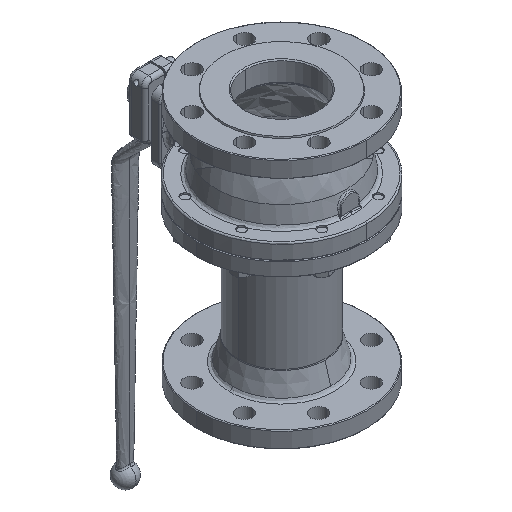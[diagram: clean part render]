
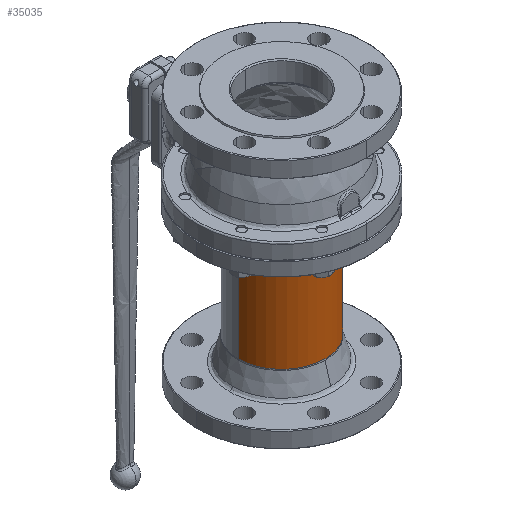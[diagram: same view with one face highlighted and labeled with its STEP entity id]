
A CAD part, isometric view. The second image highlights one B-rep face of the part: STEP entity #35035.
In plain terms, the highlighted cylindrical face has radius 60 mm (diameter 120 mm), a partial arc.
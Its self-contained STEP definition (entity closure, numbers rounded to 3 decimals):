
#556 = ORIENTED_EDGE ( 'NONE', *, *, #7911, .F. ) ;
#2024 = LINE ( 'NONE', #3053, #34164 ) ;
#2547 = VERTEX_POINT ( 'NONE', #20452 ) ;
#3053 = CARTESIAN_POINT ( 'NONE',  ( 0., 2., -60. ) ) ;
#7911 = EDGE_CURVE ( 'NONE', #8131, #29607, #38114, .T. ) ;
#8122 = EDGE_CURVE ( 'NONE', #9547, #8131, #2024, .T. ) ;
#8131 = VERTEX_POINT ( 'NONE', #35156 ) ;
#8280 = DIRECTION ( 'NONE',  ( 0., 1., 0. ) ) ;
#8581 = DIRECTION ( 'NONE',  ( 0., 1., 0. ) ) ;
#9547 = VERTEX_POINT ( 'NONE', #24201 ) ;
#12883 = AXIS2_PLACEMENT_3D ( 'NONE', #35739, #16650, #13411 ) ;
#13411 = DIRECTION ( 'NONE',  ( 0., 0., 1. ) ) ;
#16650 = DIRECTION ( 'NONE',  ( 0., 1., 0. ) ) ;
#16801 = EDGE_CURVE ( 'NONE', #2547, #29607, #37138, .T. ) ;
#17047 = CARTESIAN_POINT ( 'NONE',  ( 0., 59.56, 60. ) ) ;
#17153 = ORIENTED_EDGE ( 'NONE', *, *, #23876, .T. ) ;
#17465 = DIRECTION ( 'NONE',  ( 0., 1., 0. ) ) ;
#19497 = AXIS2_PLACEMENT_3D ( 'NONE', #27449, #8280, #30648 ) ;
#20452 = CARTESIAN_POINT ( 'NONE',  ( 0., -54.7, 60. ) ) ;
#22068 = AXIS2_PLACEMENT_3D ( 'NONE', #27747, #8581, #30966 ) ;
#23876 = EDGE_CURVE ( 'NONE', #9547, #2547, #34941, .T. ) ;
#24201 = CARTESIAN_POINT ( 'NONE',  ( 0., -54.7, -60. ) ) ;
#27449 = CARTESIAN_POINT ( 'NONE',  ( 0., 59.56, 0. ) ) ;
#27747 = CARTESIAN_POINT ( 'NONE',  ( 0., -54.7, 0. ) ) ;
#28534 = ORIENTED_EDGE ( 'NONE', *, *, #8122, .F. ) ;
#28676 = VECTOR ( 'NONE', #17465, 1000. ) ;
#28739 = CYLINDRICAL_SURFACE ( 'NONE', #12883, 60. ) ;
#29607 = VERTEX_POINT ( 'NONE', #17047 ) ;
#30648 = DIRECTION ( 'NONE',  ( 0., 0., 1. ) ) ;
#30966 = DIRECTION ( 'NONE',  ( 0., 0., 1. ) ) ;
#31965 = DIRECTION ( 'NONE',  ( 0., 1., 0. ) ) ;
#34164 = VECTOR ( 'NONE', #31965, 1000. ) ;
#34380 = EDGE_LOOP ( 'NONE', ( #28534, #17153, #37172, #556 ) ) ;
#34941 = CIRCLE ( 'NONE', #22068, 60. ) ;
#35035 = ADVANCED_FACE ( 'NONE', ( #38186 ), #28739, .T. ) ;
#35156 = CARTESIAN_POINT ( 'NONE',  ( 0., 59.56, -60. ) ) ;
#35739 = CARTESIAN_POINT ( 'NONE',  ( 0., 2., 0. ) ) ;
#36544 = CARTESIAN_POINT ( 'NONE',  ( 0., 2., 60. ) ) ;
#37138 = LINE ( 'NONE', #36544, #28676 ) ;
#37172 = ORIENTED_EDGE ( 'NONE', *, *, #16801, .T. ) ;
#38114 = CIRCLE ( 'NONE', #19497, 60. ) ;
#38186 = FACE_OUTER_BOUND ( 'NONE', #34380, .T. ) ;
